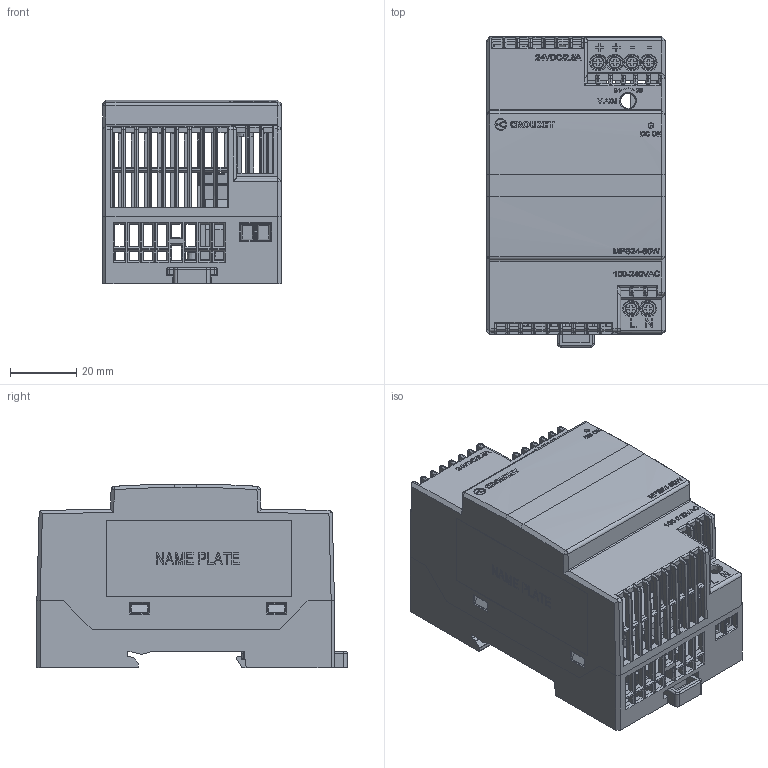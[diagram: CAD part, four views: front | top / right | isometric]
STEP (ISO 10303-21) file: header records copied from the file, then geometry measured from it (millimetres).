
FILE_DESCRIPTION (( 'STEP AP203' ), '1' );
FILE_NAME ('MPS24-60W.STEP', '2019-07-10T13:46:22', ( '' ), ( '' ), 'SwSTEP 2.0', 'SolidWorks 2019', '' );
FILE_SCHEMA (( 'CONFIG_CONTROL_DESIGN' ));
Length unit declared in the file: millimetre
Products named in the file (9): MB312-508M02.STEP; Chassis_crouzet.STEP; Label.STEP; Din clip_crouzet.STEP; CCB178.STEP; DRL60 Base PILOT.STEP; MPS24-60W; name plate_crouzet.STEP; Cover_crouzet.STEP
Assembly tree (10 placements, depth 4):
  MPS24-60W
    DRL60 Base PILOT.STEP
      CCB178.STEP
        MB312-508M02.STEP  x3
      Cover_crouzet.STEP
    Chassis_crouzet.STEP
    Din clip_crouzet.STEP
    name plate_crouzet.STEP
    Label.STEP
Bounding box: 54.15 x 93.83 x 55.6 mm (x, y, z)
Volume: 47129.6 mm3; surface area: 59119.3 mm2
Topology: 8 solids, 10 shells, 2835 faces, 9296 edges, 6495 vertices
Faces by surface type: plane 1501, cylinder 891, torus 201, sphere 92, bspline 88, cone 62
Entity records: 110727 total; most frequent: CARTESIAN_POINT 32718, ORIENTED_EDGE 17688, DIRECTION 14305, EDGE_CURVE 8844, VERTEX_POINT 6258, LINE 5823, VECTOR 5823, AXIS2_PLACEMENT_3D 4241
